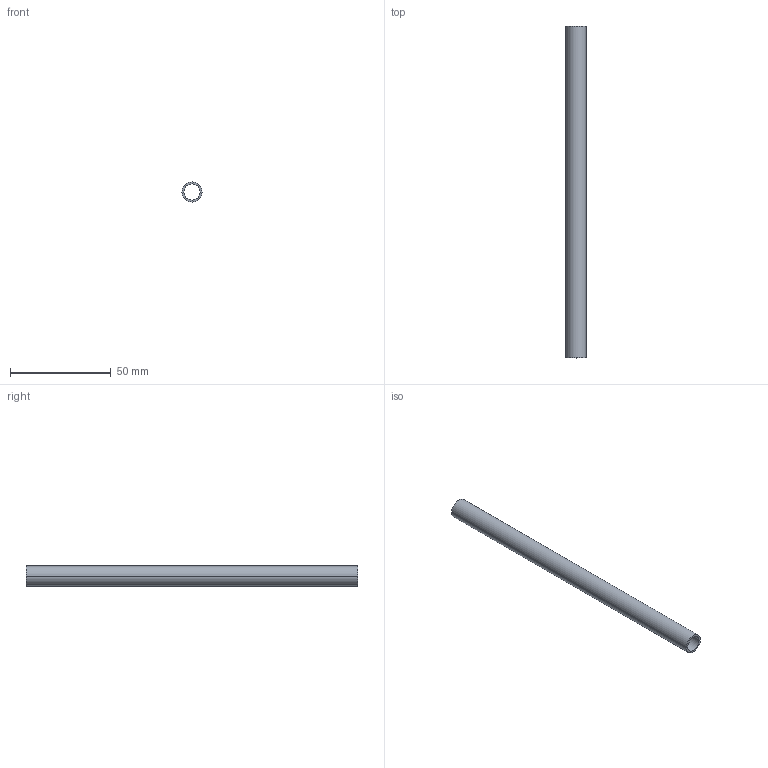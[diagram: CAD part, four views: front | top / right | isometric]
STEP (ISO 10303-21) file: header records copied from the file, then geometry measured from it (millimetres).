
FILE_DESCRIPTION((''),'2;1');
FILE_NAME('ACTO10','2002-12-27T',('Lipro doo'),('Lipro d.o.o.'),'PRO/ENGINEER BY PARAMETRIC TECHNOLOGY CORPORATION, 2001150','PRO/ENGINEER BY PARAMETRIC TECHNOLOGY CORPORATION, 2001150','');
FILE_SCHEMA(('CONFIG_CONTROL_DESIGN'));
Length unit declared in the file: millimetre
Products named in the file (1): ACTO10
Bounding box: 10 x 165 x 10 mm (x, y, z)
Volume: 4665.3 mm3; surface area: 9387.1 mm2
Topology: 1 solids, 1 shells, 6 faces, 12 edges, 8 vertices
Faces by surface type: cylinder 4, plane 2
Entity records: 206 total; most frequent: DIRECTION 32, CARTESIAN_POINT 26, ORIENTED_EDGE 24, AXIS2_PLACEMENT_3D 14, EDGE_CURVE 12, VERTEX_POINT 8, EDGE_LOOP 8, CIRCLE 8
